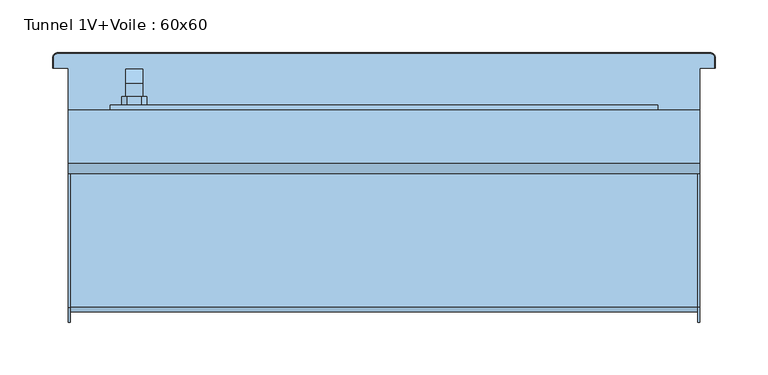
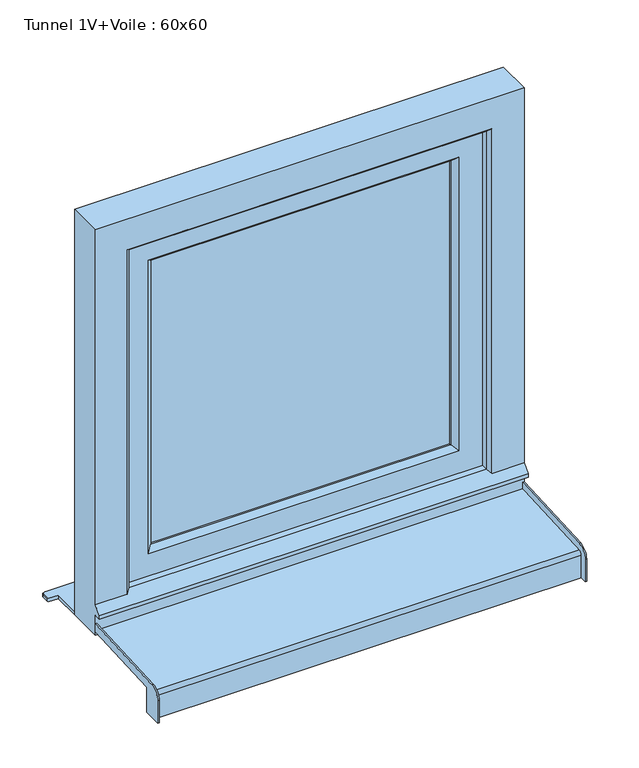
"""IFC4 building model written with IfcOpenShell, lengths in millimetres: window geometry, Tunnel 1V+Voile : 60x60."""

from ifc_helpers import new_model, si_unit, frame, origin, place, context, project, spatial, polyline, circle_curve, outline, extrude, faceted_brep, source, transform, mapped, element, save
from ifc_brep_helpers import plane_surface, cylinder_surface, revolved_surface, advanced_brep


def tunnel_1v_voile_60x60_76355a19(model_context):
    return source(origin(), model_context, "Body", "SolidModel", [
        faceted_brep([(-245.5, 73.0, 1306.0), (-245.5, 73.0, 1294.0), (-229.5, 73.0, 1294.0), (-229.5, 73.0, 1306.0), (-229.5, 85.4852814, 1306.0), (-245.5, 85.4852814, 1306.0), (-229.5, 80.5147186, 1294.0), (-229.5, 87.0, 1287.5147186), (-229.5, 87.0, 1287.2282668), (-229.5, 89.7580139, 1208.5355339), (-229.5, 99.0, 1208.5355339), (-229.5, 99.0, 1292.4852814), (-245.5, 80.5147186, 1294.0), (-245.5, 99.0, 1292.4852814), (-245.5, 99.0, 1208.5355339), (-245.5, 89.7580139, 1208.5355339), (-245.5, 87.0099909, 1287.2286157), (-245.5, 87.0, 1287.5147186), (-233.0355339, 99.0, 1205.0), (-233.0355339, 89.8814775, 1205.0), (-241.9644661, 89.8814775, 1205.0), (-241.9644661, 99.0, 1205.0)], [[[0, 1, 2, 3]], [[3, 4, 5, 0]], [[2, 6, 7, 8, 9, 10, 11, 4, 3]], [[1, 12, 6, 2]], [[0, 5, 13, 14, 15, 16, 17, 12, 1]], [[4, 11, 13, 5]], [[6, 12, 17, 7]], [[18, 19, 20, 21]], [[11, 10, 18, 21, 14, 13]], [[17, 16, 8, 7]], [[16, 15, 20, 19, 9, 8]], [[9, 19, 18, 10]], [[14, 21, 20, 15]]]),
        extrude(outline(polyline([(1330.0, -244.5), (1325.0, -249.5), (1275.0, -249.5), (1270.0, -244.5), (1270.0, -230.5), (1275.0, -225.5), (1325.0, -225.5), (1330.0, -230.5), (1330.0, -244.5)])), frame((0.0, 65.0, 0.0), z_axis=(0.0, 1.0, 0.0), x_axis=(0.0, 0.0, 1.0)), (0.0, 0.0, 1.0), 8.0),
        advanced_brep(
        [(-300.0, -115.0, 762.0), (-300.0, -141.5, 762.0), (-300.0, -141.5, 795.1063906), (-300.0, -127.2850393, 810.0858337), (-300.0, 10.0, 817.2806377), (-300.0, 10.0, 805.7648557), (-300.0, -115.0, 799.2138833), (300.0, -115.0, 799.2138833), (300.0, 10.0, 805.7648557), (300.0, 10.0, 817.2806377), (300.0, -127.2850393, 810.0858337), (300.0, -141.5, 795.1063906), (300.0, -141.5, 762.0), (300.0, -115.0, 762.0), (-298.0, 10.0, 817.2806377), (-298.0, 10.0, 807.2669142), (298.0, 10.0, 807.2669142), (298.0, 10.0, 817.2806377), (-298.0, -126.7616798, 800.0995383), (298.0, -126.7616798, 800.0995383), (298.0, -131.5, 795.1063906), (-298.0, -131.5, 795.1063906), (-298.0, -131.5, 762.0), (298.0, -131.5, 762.0), (-298.0, -130.0, 762.0), (298.0, -130.0, 762.0), (298.0, -115.0, 762.0), (298.0, -141.5, 762.0), (-298.0, -141.5, 762.0), (-298.0, -115.0, 762.0), (-298.0, -120.0, 772.0), (298.0, -120.0, 772.0), (-298.0, -121.0606602, 773.0606602), (298.0, -121.0606602, 773.0606602), (-298.0, -130.0, 764.1213203), (298.0, -130.0, 764.1213203), (-298.0, -130.0, 795.0728058), (298.0, -130.0, 795.0728058), (-298.0, -115.0, 799.2138833), (298.0, -115.0, 799.2138833), (298.0, -126.649637, 798.6033517), (-298.0, -126.649637, 798.6033517), (298.0, -141.5, 795.1063906), (298.0, -127.2850393, 810.0858337), (-298.0, -127.2850393, 810.0858337), (-298.0, -141.5, 795.1063906)],
        [
            (0, 1),
            (1, 2),
            (2, 3, circle_curve(frame((-300.0, -126.5, 795.1063906), z_axis=(-1.0, 0.0, 0.0), x_axis=(0.0, -0.052335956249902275, 0.9986295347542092)), 15.0)),
            (3, 4),
            (4, 5),
            (5, 6),
            (6, 0),
            (7, 8),
            (8, 9),
            (9, 10),
            (10, 11, circle_curve(frame((300.0, -126.5, 795.1063906), z_axis=(1.0, 0.0, 0.0), x_axis=(0.0, -1.0, 0.0)), 15.0)),
            (11, 12),
            (12, 13),
            (13, 7),
            (14, 15),
            (15, 16),
            (16, 17),
            (17, 9),
            (8, 5),
            (4, 14),
            (18, 19),
            (19, 16),
            (15, 18),
            (20, 21),
            (21, 22),
            (22, 23),
            (23, 20),
            (24, 25),
            (25, 26),
            (26, 13),
            (12, 27),
            (27, 23),
            (22, 28),
            (28, 1),
            (0, 29),
            (29, 24),
            (30, 31),
            (31, 25),
            (24, 30),
            (32, 33),
            (33, 31),
            (30, 32),
            (34, 35),
            (35, 33),
            (32, 34),
            (36, 37),
            (37, 35),
            (34, 36),
            (38, 6),
            (7, 39),
            (39, 40),
            (40, 41),
            (41, 38),
            (41, 36, circle_curve(frame((-298.0, -126.4646089, 795.0728058), z_axis=(1.0, 0.0, 0.0), x_axis=(0.0, 1.0, 0.0)), 3.5353911)),
            (29, 38),
            (37, 40, circle_curve(frame((298.0, -126.4646089, 795.0728058), z_axis=(-1.0, 0.0, 0.0), x_axis=(0.0, 1.0, 0.0)), 3.5353911)),
            (39, 26),
            (18, 21, circle_curve(frame((-298.0, -126.5, 795.1063906), z_axis=(1.0, 0.0, 0.0), x_axis=(0.0, 1.0, 0.0)), 5.0)),
            (20, 19, circle_curve(frame((298.0, -126.5, 795.1063906), z_axis=(-1.0, 0.0, 0.0), x_axis=(0.0, 1.0, 0.0)), 5.0)),
            (27, 42),
            (42, 43, circle_curve(frame((298.0, -126.5, 795.1063906), z_axis=(-1.0, 0.0, 0.0), x_axis=(0.0, -1.0, 0.0)), 15.0)),
            (43, 17),
            (11, 42),
            (10, 43),
            (14, 44),
            (44, 45, circle_curve(frame((-298.0, -126.5, 795.1063906), z_axis=(1.0, 0.0, 0.0), x_axis=(0.0, -0.052335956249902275, 0.9986295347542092)), 15.0)),
            (45, 28),
            (3, 44),
            (2, 45),
        ],
        [
            plane_surface(frame((-300.0, 10.0, 805.7648557), z_axis=(-1.0, 0.0, 0.0), x_axis=(0.0, 0.0, 1.0))),
            plane_surface(frame((300.0, 10.0, 805.7648557), z_axis=(1.0, 0.0, 0.0), x_axis=(0.0, 0.0, -1.0))),
            plane_surface(frame((-300.0, 10.0, 805.7648557), z_axis=(0.0, 1.0, 0.0), x_axis=(1.0, 0.0, 0.0))),
            plane_surface(frame((-300.0, 10.0, 807.2669142), z_axis=(0.0, -0.05233595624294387, 0.9986295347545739), x_axis=(1.0, 0.0, 0.0))),
            plane_surface(frame((-300.0, -131.5, 795.1063906), z_axis=(0.0, -1.0, 0.0), x_axis=(1.0, 0.0, 0.0))),
            plane_surface(frame((-300.0, -131.5, 762.0), z_axis=(0.0, 0.0, -1.0), x_axis=(1.0, 0.0, 0.0))),
            plane_surface(frame((-300.0, -130.0, 762.0), z_axis=(0.0, 0.7071067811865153, -0.7071067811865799), x_axis=(1.0, 0.0, 0.0))),
            plane_surface(frame((-300.0, -120.0, 772.0), z_axis=(0.0, 0.7071067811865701, 0.707106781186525), x_axis=(1.0, 0.0, 0.0))),
            plane_surface(frame((-300.0, -121.0606602, 773.0606602), z_axis=(0.0, -0.7071067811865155, 0.7071067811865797), x_axis=(1.0, 0.0, 0.0))),
            plane_surface(frame((-300.0, -130.0, 764.1213203), z_axis=(0.0, 1.0, 0.0), x_axis=(1.0, 0.0, 0.0))),
            plane_surface(frame((-300.0, -126.649637, 798.6033517), z_axis=(0.0, 0.052335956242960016, -0.9986295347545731), x_axis=(1.0, 0.0, 0.0))),
            plane_surface(frame((-298.0, -130.0, 798.4277666), z_axis=(1.0, 0.0, 0.0), x_axis=(0.0, 0.9986295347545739, 0.05233595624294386))),
            plane_surface(frame((-300.0, -115.0, 762.0), z_axis=(0.0, 1.0, 0.0), x_axis=(1.0, 0.0, 0.0))),
            plane_surface(frame((298.0, -130.0, 798.4277666), z_axis=(-1.0, 0.0, 0.0), x_axis=(0.0, 0.0, -1.0))),
            plane_surface(frame((298.0, -115.0, 762.0), z_axis=(0.0, 1.0, 0.0), x_axis=(1.0, 0.0, 0.0))),
            cylinder_surface(frame((300.0, -126.5, 795.1063906), z_axis=(-1.0, 0.0, 0.0), x_axis=(0.0, 1.0, 0.0)), 5.0),
            revolved_surface(polyline([(298.0, -122.9292178, 795.0728058), (-298.0, -122.9292178, 795.0728058)]), (300.0, -126.4646089, 795.0728058), (1.0, 0.0, 0.0)),
            plane_surface(frame((298.0, -131.5, 762.0), z_axis=(-1.0, 0.0, 0.0), x_axis=(0.0, 0.0, 1.0))),
            plane_surface(frame((298.0, -141.5, 762.0), z_axis=(0.0, -1.0, 0.0), x_axis=(0.0, 0.0, 1.0))),
            cylinder_surface(frame((300.0, -126.5, 795.1063906), z_axis=(1.0, 0.0, 0.0), x_axis=(0.0, -1.0, 0.0)), 15.0),
            plane_surface(frame((298.0, -127.2850393, 810.0858337), z_axis=(0.0, -0.0523359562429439, 0.9986295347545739), x_axis=(0.0, 0.9986295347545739, 0.0523359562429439))),
            plane_surface(frame((-298.0, 10.0, 817.2806377), z_axis=(1.0, 0.0, 0.0), x_axis=(0.0, 0.9986295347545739, 0.05233595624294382))),
            plane_surface(frame((-300.0, 10.0, 817.2806377), z_axis=(0.0, -0.05233595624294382, 0.9986295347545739), x_axis=(1.0, 0.0, 0.0))),
            cylinder_surface(frame((-300.0, -126.5, 795.1063906), z_axis=(-1.0, 0.0, 0.0), x_axis=(0.0, -0.052335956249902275, 0.9986295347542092)), 15.0),
            plane_surface(frame((-298.0, -141.5, 795.1063906), z_axis=(0.0, -1.0, 0.0), x_axis=(0.0, 0.0, -1.0))),
        ],
        [
            (0, [[1, 2, 3, 4, 5, 6, 7]]),
            (1, [[8, 9, 10, 11, 12, 13, 14]]),
            (2, [[15, 16, 17, 18, -9, 19, -5, 20]]),
            (3, [[21, 22, -16, 23]]),
            (4, [[24, 25, 26, 27]]),
            (5, [[28, 29, 30, -13, 31, 32, -26, 33, 34, -1, 35, 36]]),
            (6, [[37, 38, -28, 39]]),
            (7, [[40, 41, -37, 42]]),
            (8, [[43, 44, -40, 45]]),
            (9, [[46, 47, -43, 48]]),
            (10, [[49, -6, -19, -8, 50, 51, 52, 53]]),
            (11, [[-53, 54, -48, -45, -42, -39, -36, 55]]),
            (12, [[-35, -7, -49, -55]]),
            (13, [[-38, -41, -44, -47, 56, -51, 57, -29]]),
            (14, [[-50, -14, -30, -57]]),
            (15, [[-21, 58, -24, 59]]),
            (16, [[-52, -56, -46, -54]]),
            (17, [[60, 61, 62, -17, -22, -59, -27, -32]]),
            (18, [[-12, 63, -60, -31]]),
            (19, [[64, -61, -63, -11]]),
            (20, [[-10, -18, -62, -64]]),
            (21, [[65, 66, 67, -33, -25, -58, -23, -15]]),
            (22, [[68, -65, -20, -4]]),
            (23, [[69, -66, -68, -3]]),
            (24, [[-34, -67, -69, -2]]),
        ],
    ),
        extrude(outline(polyline([(-210.0, 55.0), (210.0, 55.0), (210.0, 35.0), (-210.0, 35.0), (-210.0, 55.0)])), frame((0.0, 0.0, 890.0), z_axis=(0.0, 0.0, 1.0), x_axis=(1.0, 0.0, 0.0)), (0.0, 0.0, 1.0), 420.0),
        faceted_brep([(-260.0, 65.0, 840.0), (260.0, 65.0, 840.0), (260.0, 25.0, 840.0), (-260.0, 25.0, 840.0), (260.0, 65.0, 1360.0), (260.0, 25.0, 1360.0), (-260.0, 25.0, 1360.0), (217.0710678, 25.0, 1317.0710678), (217.0710678, 25.0, 882.9289322), (-217.0710678, 25.0, 882.9289322), (-217.0710678, 25.0, 1317.0710678), (-260.0, 65.0, 1360.0), (217.0710678, 65.0, 882.9289322), (217.0710678, 65.0, 1317.0710678), (-217.0710678, 65.0, 1317.0710678), (-217.0710678, 65.0, 882.9289322), (-210.0, 57.9289322, 890.0), (210.0, 57.9289322, 890.0), (210.0, 57.9289322, 1310.0), (210.0, 32.0710678, 890.0), (210.0, 32.0710678, 1310.0), (-210.0, 32.0710678, 890.0), (-210.0, 57.9289322, 1310.0), (-210.0, 32.0710678, 1310.0)], [[[0, 1, 2, 3]], [[1, 4, 5, 2]], [[2, 5, 6, 3], [7, 8, 9, 10]], [[4, 1, 0, 11], [12, 13, 14, 15]], [[16, 17, 12, 15]], [[17, 18, 13, 12]], [[19, 20, 18, 17]], [[9, 8, 19, 21]], [[8, 7, 20, 19]], [[11, 0, 3, 6]], [[22, 16, 15, 14]], [[23, 21, 16, 22]], [[10, 9, 21, 23]], [[21, 19, 17, 16]], [[4, 11, 6, 5]], [[18, 22, 14, 13]], [[7, 10, 23, 20]], [[20, 23, 22, 18]]]),
        faceted_brep([(300.0, 10.0, 800.0), (300.0, 60.0, 800.0), (300.0, 60.0, 1400.0), (300.0, 10.0, 1400.0), (300.0, 10.0, 845.0), (300.0, 0.0, 835.0), (300.0, 0.0, 830.0), (300.0, 10.0, 830.0), (-300.0, 10.0, 830.0), (-300.0, 10.0, 800.0), (-300.0, 0.0, 830.0), (-300.0, 0.0, 835.0), (255.0, 10.0, 845.0), (250.0, 15.0, 850.0), (-250.0, 15.0, 850.0), (-255.0, 10.0, 845.0), (-300.0, 10.0, 845.0), (-300.0, 10.0, 1400.0), (-255.0, 10.0, 1355.0), (255.0, 10.0, 1355.0), (-300.0, 60.0, 800.0), (-300.0, 60.0, 1400.0), (260.0, 60.0, 840.0), (260.0, 60.0, 1360.0), (-260.0, 60.0, 1360.0), (-260.0, 60.0, 840.0), (-260.0, 25.0, 840.0), (260.0, 25.0, 840.0), (-260.0, 25.0, 1360.0), (260.0, 25.0, 1360.0), (250.0, 25.0, 850.0), (250.0, 25.0, 1350.0), (-250.0, 25.0, 1350.0), (-250.0, 25.0, 850.0), (-250.0, 15.0, 1350.0), (250.0, 15.0, 1350.0)], [[[0, 1, 2, 3, 4, 5, 6, 7]], [[7, 8, 9, 0]], [[6, 10, 8, 7]], [[5, 11, 10, 6]], [[5, 4, 12, 13, 14, 15, 16, 11]], [[17, 16, 15, 18, 19, 12, 4, 3]], [[1, 20, 21, 2], [22, 23, 24, 25]], [[0, 9, 20, 1]], [[9, 8, 10, 11, 16, 17, 21, 20]], [[25, 26, 27, 22]], [[26, 25, 24, 28]], [[22, 27, 29, 23]], [[29, 27, 26, 28], [30, 31, 32, 33]], [[33, 14, 13, 30]], [[34, 14, 33, 32]], [[31, 30, 13, 35]], [[35, 13, 12, 19]], [[18, 15, 14, 34]], [[28, 24, 23, 29]], [[3, 2, 21, 17]], [[31, 35, 34, 32]], [[18, 34, 35, 19]]]),
        advanced_brep(
        [(300.0, 100.0, 805.0), (313.9971508, 100.0, 805.0), (313.9971508, 110.0, 805.0), (310.0, 113.9971508, 805.0), (-310.0, 113.9971508, 805.0), (-313.9971508, 110.0, 805.0), (-313.9971508, 100.0, 805.0), (-300.0, 100.0, 805.0), (-300.0, 60.0, 805.0), (300.0, 60.0, 805.0), (-300.0, 100.0, 800.0), (-313.9971508, 100.0, 800.0), (-313.9971508, 110.0, 800.0), (-310.0, 113.9971508, 800.0), (310.0, 113.9971508, 800.0), (313.9971508, 110.0, 800.0), (313.9971508, 100.0, 800.0), (300.0, 100.0, 800.0), (300.0, 60.0, 800.0), (-300.0, 60.0, 800.0), (-315.0, 110.0, 801.0028492), (-315.0, 100.0, 801.0028492), (-315.0, 100.0, 803.9971508), (-315.0, 110.0, 803.9971508), (315.0, 100.0, 801.0028492), (315.0, 100.0, 803.9971508), (315.0, 110.0, 801.0028492), (315.0, 110.0, 803.9971508), (310.0, 115.0, 801.0028492), (-310.0, 115.0, 801.0028492), (-310.0, 115.0, 803.9971508), (310.0, 115.0, 803.9971508)],
        [
            (0, 1),
            (1, 2),
            (2, 3, circle_curve(frame((310.0, 110.0, 805.0), z_axis=(0.0, 0.0, 1.0), x_axis=(0.0, 1.0, 0.0)), 3.9971508)),
            (3, 4),
            (4, 5, circle_curve(frame((-310.0, 110.0, 805.0), z_axis=(0.0, 0.0, 1.0), x_axis=(-1.0, 0.0, 0.0)), 3.9971508)),
            (5, 6),
            (6, 7),
            (7, 8),
            (8, 9),
            (9, 0),
            (10, 11),
            (11, 12),
            (12, 13, circle_curve(frame((-310.0, 110.0, 800.0), z_axis=(0.0, 0.0, -1.0), x_axis=(-1.0, 0.0, 0.0)), 3.9971508)),
            (13, 14),
            (14, 15, circle_curve(frame((310.0, 110.0, 800.0), z_axis=(0.0, 0.0, -1.0), x_axis=(0.0, 1.0, 0.0)), 3.9971508)),
            (15, 16),
            (16, 17),
            (17, 18),
            (18, 19),
            (19, 10),
            (20, 21),
            (21, 22),
            (22, 23),
            (23, 20),
            (6, 22),
            (21, 11),
            (10, 7),
            (19, 8),
            (18, 9),
            (17, 0),
            (16, 24),
            (24, 25),
            (25, 1),
            (24, 26),
            (26, 27),
            (27, 25),
            (28, 29),
            (29, 30),
            (30, 31),
            (31, 28),
            (31, 27, circle_curve(frame((310.0, 110.0, 803.9971508), z_axis=(0.0, 0.0, -1.0), x_axis=(0.0, 1.0, 0.0)), 5.0)),
            (26, 28, circle_curve(frame((310.0, 110.0, 801.0028492), z_axis=(0.0, 0.0, 1.0), x_axis=(0.0, 1.0, 0.0)), 5.0)),
            (23, 30, circle_curve(frame((-310.0, 110.0, 803.9971508), z_axis=(0.0, 0.0, -1.0), x_axis=(0.0, 1.0, 0.0)), 5.0)),
            (29, 20, circle_curve(frame((-310.0, 110.0, 801.0028492), z_axis=(0.0, 0.0, 1.0), x_axis=(0.0, 1.0, 0.0)), 5.0)),
            (5, 23),
            (20, 12),
            (4, 30),
            (29, 13),
            (3, 31),
            (28, 14),
            (2, 27),
            (26, 15),
        ],
        [
            plane_surface(frame((-315.0, 100.0, 805.0), z_axis=(0.0, 0.0, 1.0), x_axis=(0.0, 1.0, 0.0))),
            plane_surface(frame((-315.0, 100.0, 800.0), z_axis=(0.0, 0.0, -1.0), x_axis=(0.0, -1.0, 0.0))),
            plane_surface(frame((-315.0, 110.0, 800.0), z_axis=(-1.0, 0.0, 0.0), x_axis=(0.0, 0.0, 1.0))),
            plane_surface(frame((-315.0, 100.0, 800.0), z_axis=(0.0, -1.0, 0.0), x_axis=(0.0, 0.0, 1.0))),
            plane_surface(frame((-300.0, 100.0, 800.0), z_axis=(-1.0, 0.0, 0.0), x_axis=(0.0, 0.0, 1.0))),
            plane_surface(frame((-300.0, 60.0, 800.0), z_axis=(0.0, -1.0, 0.0), x_axis=(0.0, 0.0, 1.0))),
            plane_surface(frame((300.0, 60.0, 800.0), z_axis=(1.0, 0.0, 0.0), x_axis=(0.0, 0.0, 1.0))),
            plane_surface(frame((300.0, 100.0, 800.0), z_axis=(0.0, -1.0, 0.0), x_axis=(0.0, 0.0, 1.0))),
            plane_surface(frame((315.0, 100.0, 800.0), z_axis=(1.0, 0.0, 0.0), x_axis=(0.0, 0.0, 1.0))),
            plane_surface(frame((310.0, 115.0, 800.0), z_axis=(0.0, 1.0, 0.0), x_axis=(0.0, 0.0, 1.0))),
            cylinder_surface(frame((310.0, 110.0, 805.0), z_axis=(0.0, 0.0, -1.0), x_axis=(0.0, 1.0, 0.0)), 5.0),
            cylinder_surface(frame((-310.0, 110.0, 805.0), z_axis=(0.0, 0.0, -1.0), x_axis=(0.0, 1.0, 0.0)), 5.0),
            plane_surface(frame((-313.9971508, 100.0, 805.0), z_axis=(-0.7071067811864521, 0.0, 0.707106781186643), x_axis=(0.0, 1.0, 0.0))),
            plane_surface(frame((-315.0, 100.0, 801.0028492), z_axis=(-0.7071067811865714, 0.0, -0.7071067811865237), x_axis=(0.0, 1.0, 0.0))),
            revolved_surface(polyline([(-315.0, 110.0, 803.9971508), (-313.9971508, 110.0, 805.0)]), (-310.0, 110.0, 805.0), (0.0, 0.0, 1.0)),
            revolved_surface(polyline([(-313.9971508, 110.0, 800.0), (-315.0, 110.0, 801.0028492)]), (-310.0, 110.0, 805.0), (0.0, 0.0, 1.0)),
            plane_surface(frame((-310.0, 113.9971508, 805.0), z_axis=(0.0, 0.7071067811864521, 0.707106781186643), x_axis=(1.0, 0.0, 0.0))),
            plane_surface(frame((-310.0, 115.0, 801.0028492), z_axis=(0.0, 0.7071067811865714, -0.7071067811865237), x_axis=(1.0, 0.0, 0.0))),
            revolved_surface(polyline([(310.0, 115.0, 803.9971508), (310.0, 113.9971508, 805.0)]), (310.0, 110.0, 805.0), (0.0, 0.0, 1.0)),
            revolved_surface(polyline([(310.0, 113.9971508, 800.0), (310.0, 115.0, 801.0028492)]), (310.0, 110.0, 805.0), (0.0, 0.0, 1.0)),
            plane_surface(frame((313.9971508, 110.0, 805.0), z_axis=(0.7071067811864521, 0.0, 0.707106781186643), x_axis=(0.0, -1.0, 0.0))),
            plane_surface(frame((315.0, 110.0, 801.0028492), z_axis=(0.7071067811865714, 0.0, -0.7071067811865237), x_axis=(0.0, -1.0, 0.0))),
        ],
        [
            (0, [[1, 2, 3, 4, 5, 6, 7, 8, 9, 10]]),
            (1, [[11, 12, 13, 14, 15, 16, 17, 18, 19, 20]]),
            (2, [[21, 22, 23, 24]]),
            (3, [[-7, 25, -22, 26, -11, 27]]),
            (4, [[-27, -20, 28, -8]]),
            (5, [[-28, -19, 29, -9]]),
            (6, [[-29, -18, 30, -10]]),
            (7, [[-17, 31, 32, 33, -1, -30]]),
            (8, [[34, 35, 36, -32]]),
            (9, [[37, 38, 39, 40]]),
            (10, [[41, -35, 42, -40]]),
            (11, [[43, -38, 44, -24]]),
            (12, [[-23, -25, -6, 45]]),
            (13, [[-12, -26, -21, 46]]),
            (14, [[-5, 47, -43, -45]]),
            (15, [[-44, 48, -13, -46]]),
            (16, [[-4, 49, -39, -47]]),
            (17, [[-37, 50, -14, -48]]),
            (18, [[-3, 51, -41, -49]]),
            (19, [[-42, 52, -15, -50]]),
            (20, [[-2, -33, -36, -51]]),
            (21, [[-34, -31, -16, -52]]),
        ],
    ),
    ])


if __name__ == "__main__":
    model = new_model("IFC4")
    model_context = context("Model", 3, world=origin())
    ifc_project = project(units=[si_unit("LENGTHUNIT", "METRE", prefix="MILLI")], contexts=[model_context])
    site = spatial("IfcSite", under=ifc_project)
    building = spatial("IfcBuilding", under=site)
    placement = place(None, origin())
    tunnel_1v_voile_60x60_shape = tunnel_1v_voile_60x60_76355a19(model_context)
    element("IfcWindow", 1, ObjectType="Tunnel 1V+Voile : 60x60", at=placement, inside=building, context=model_context, shape_type="MappedRepresentation", body=[
        mapped(tunnel_1v_voile_60x60_shape, transform((0.0, 0.0, 0.0), x_axis=(1.0, 0.0, 0.0), y_axis=(0.0, 1.0, 0.0), z_axis=(0.0, 0.0, 1.0))),
    ])
    save(model, "model.ifc")
